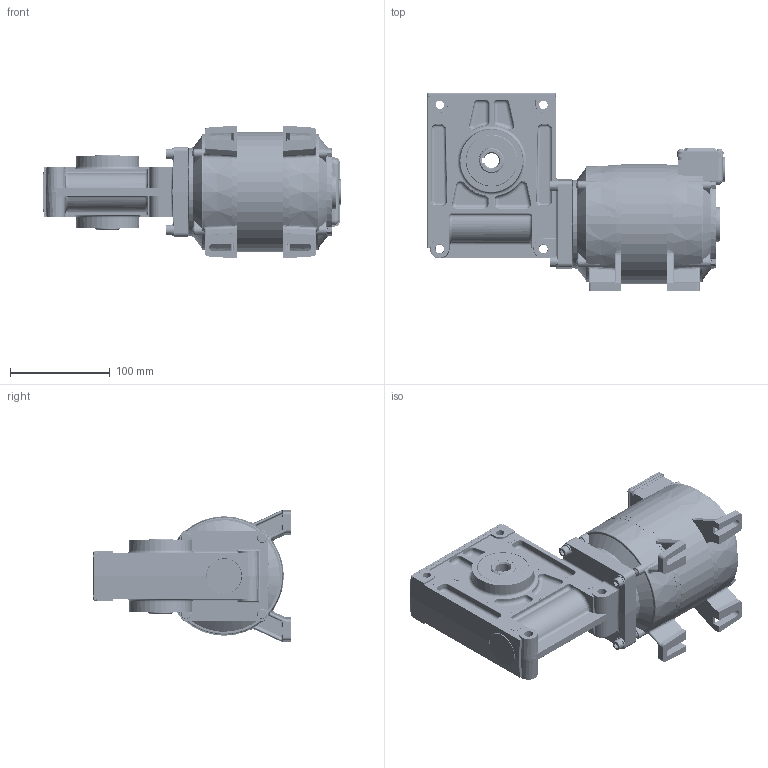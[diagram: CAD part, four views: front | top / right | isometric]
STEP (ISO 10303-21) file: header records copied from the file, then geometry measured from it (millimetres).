
FILE_DESCRIPTION (( 'STEP AP214' ), '1' );
FILE_NAME ('SD18-GB9.STEP', '2021-08-11T13:55:35', ( '' ), ( '' ), 'SwSTEP 2.0', 'SolidWorks 2020', '' );
FILE_SCHEMA (( 'AUTOMOTIVE_DESIGN' ));
Length unit declared in the file: millimetre
Products named in the file (1): SD18-GB9
Bounding box: 299.32 x 197.78 x 133.35 mm (x, y, z)
Surface area: 496751.9 mm2 (no closed solid volume)
Topology: 0 solids, 139 shells, 2491 faces, 15387 edges, 13008 vertices
Faces by surface type: cylinder 898, plane 652, cone 394, bspline 258, torus 247, sphere 42
Entity records: 206500 total; most frequent: CARTESIAN_POINT 61535, DIRECTION 25639, ORIENTED_EDGE 21008, EDGE_CURVE 15345, VERTEX_POINT 13008, AXIS2_PLACEMENT_3D 9551, CIRCLE 7317, LINE 6537
